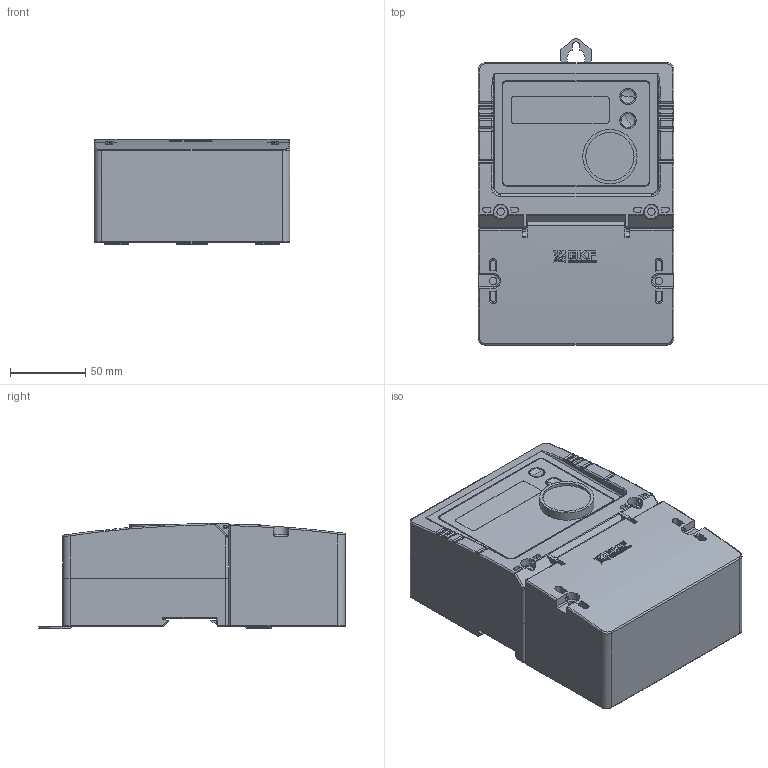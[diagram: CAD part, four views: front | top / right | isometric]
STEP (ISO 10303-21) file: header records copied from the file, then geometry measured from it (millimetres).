
FILE_DESCRIPTION (( 'STEP AP203' ), '1' );
FILE_NAME ('捗檠106.STEP', '2018-09-04T07:24:32', ( '' ), ( '' ), 'SwSTEP 2.0', 'SolidWorks 2017', '' );
FILE_SCHEMA (( 'CONFIG_CONTROL_DESIGN' ));
Length unit declared in the file: millimetre
Products named in the file (15): Âñòàâêà êðûøêè2; ÑÊÀÒ106_Êðûøêà âñòàâêè íà êîëîäêó; Âñòàâêà; Ïëàòà ñ÷åò÷èêà; Íîâàÿ êðûøêà_îêîí÷àòåëüíûé âàðèàíò; 扱闀罻_1; Êîðïóñ äëÿ ïëàòû; âòîðàÿ êðûøêà_ïðàâèëüíàÿ_âàðèàíò ñ ïëîìáèðîâêîé; 捗檠106; îñíîâàíèå; 瀁鳱殥罻; îñíîâàíèå ïëàòû; 扱闀罻; 栖闉罻1; çàùåëêà
Assembly tree (14 placements, depth 3):
  捗檠106
    Íîâàÿ êðûøêà_îêîí÷àòåëüíûé âàðèàíò
    Ïëàòà ñ÷åò÷èêà
    扱闀罻
    扱闀罻_1
    栖闉罻1
      îñíîâàíèå
      Âñòàâêà
      çàùåëêà
      瀁鳱殥罻
    Êîðïóñ äëÿ ïëàòû
      ÑÊÀÒ106_Êðûøêà âñòàâêè íà êîëîäêó
      îñíîâàíèå ïëàòû
    âòîðàÿ êðûøêà_ïðàâèëüíàÿ_âàðèàíò ñ ïëîìáèðîâêîé
    Âñòàâêà êðûøêè2
Bounding box: 130 x 203.3 x 70.03 mm (x, y, z)
Volume: 575600.6 mm3; surface area: 331239.2 mm2
Topology: 12 solids, 12 shells, 2248 faces, 5969 edges, 3814 vertices
Faces by surface type: plane 1159, cylinder 691, torus 179, bspline 164, cone 32, sphere 23
Entity records: 80582 total; most frequent: CARTESIAN_POINT 23139, ORIENTED_EDGE 11892, DIRECTION 11378, EDGE_CURVE 5946, AXIS2_PLACEMENT_3D 3866, VERTEX_POINT 3808, VECTOR 3646, LINE 3646
